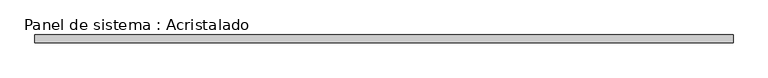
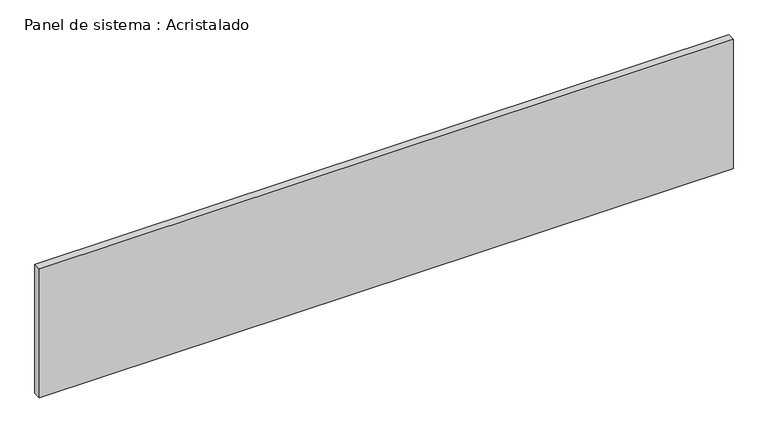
"""IFC4 building model written with IfcOpenShell, lengths in millimetres: plate geometry, Panel de sistema : Acristalado."""

from ifc_helpers import new_model, si_unit, origin, origin_with_axes, place, context, project, spatial, polyline, outline, extrude, source, transform, mapped, element, save


def panel_de_sistema_acristalado_f33c19d0(model_context):
    return source(origin(), model_context, "Body", "SweptSolid", [
        extrude(outline(polyline([(887.5, -10.0), (-887.5, -10.0), (-887.5, 10.0), (887.5, 10.0), (887.5, -10.0)])), origin_with_axes(), (0.0, 0.0, 1.0), 350.0),
    ])


if __name__ == "__main__":
    model = new_model("IFC4")
    model_context = context("Model", 3, world=origin())
    ifc_project = project(units=[si_unit("LENGTHUNIT", "METRE", prefix="MILLI")], contexts=[model_context])
    site = spatial("IfcSite", under=ifc_project)
    building = spatial("IfcBuilding", under=site)
    placement = place(None, origin())
    panel_de_sistema_acristalado_shape = panel_de_sistema_acristalado_f33c19d0(model_context)
    element("IfcPlate", 1, ObjectType="Panel de sistema : Acristalado", at=placement, inside=building, context=model_context, shape_type="MappedRepresentation", body=[
        mapped(panel_de_sistema_acristalado_shape, transform((0.0, 0.0, 0.0), x_axis=(1.0, 0.0, 0.0), y_axis=(0.0, 1.0, 0.0), z_axis=(0.0, 0.0, 1.0))),
    ])
    save(model, "model.ifc")
